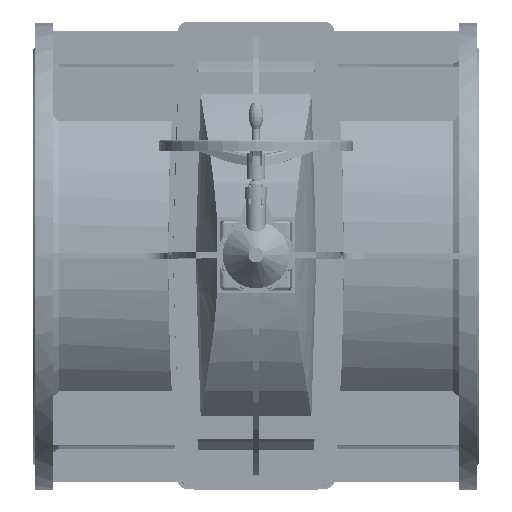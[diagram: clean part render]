
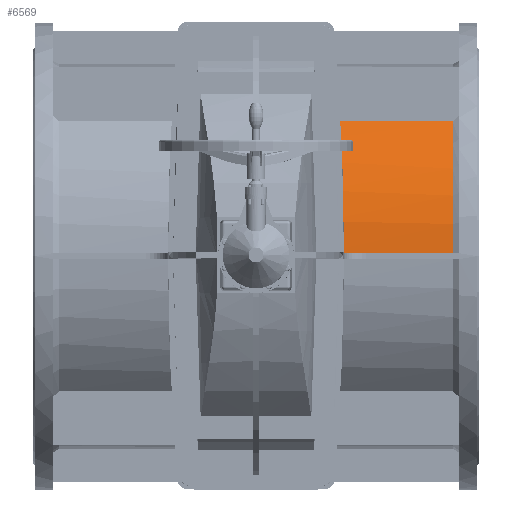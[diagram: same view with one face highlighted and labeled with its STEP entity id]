
A CAD part, top view. The second image highlights one B-rep face of the part: STEP entity #6569.
In plain terms, the highlighted cylindrical face has radius 516.667 mm (diameter 1033.33 mm), a partial arc.
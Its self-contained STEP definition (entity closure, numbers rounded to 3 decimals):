
#6569=ADVANCED_FACE('',(#12770),#12772,.T.);
#12770=FACE_BOUND('',#12771,.T.);
#12771=EDGE_LOOP('',(#28566,#28567,#28568,#28569));
#12772=CYLINDRICAL_SURFACE('',#12773,516.667);
#12773=AXIS2_PLACEMENT_3D('',#12774,#12775,#12776);
#12774=CARTESIAN_POINT('',(545.,0.,0.));
#12775=DIRECTION('',(-1.,0.,0.));
#12776=DIRECTION('',(0.,1.,0.));
#28566=ORIENTED_EDGE('',*,*,#36009,.F.);
#28567=ORIENTED_EDGE('',*,*,#36010,.T.);
#28568=ORIENTED_EDGE('',*,*,#35729,.F.);
#28569=ORIENTED_EDGE('',*,*,#36008,.T.);
#35729=EDGE_CURVE('',#39967,#39969,#39970,.T.);
#36008=EDGE_CURVE('',#39967,#40469,#40471,.T.);
#36009=EDGE_CURVE('',#40472,#40469,#40473,.F.);
#36010=EDGE_CURVE('',#40472,#39969,#40474,.F.);
#39967=VERTEX_POINT('',#49360);
#39969=VERTEX_POINT('',#49371);
#39970=LINE('',#49372,#49373);
#40469=VERTEX_POINT('',#51483);
#40471=CIRCLE('',#51494,516.667);
#40472=VERTEX_POINT('',#51498);
#40473=LINE('',#51499,#51500);
#40474=B_SPLINE_CURVE_WITH_KNOTS('',3,
(#51502,#51503,#51504,#51505,#51506,#51507,#51508,#51509,#51510,#51511,#51512,#51513,
#51514,#51515,#51516,#51517,#51518,#51519,#51520,#51521,#51522,#51523,#51524,#51525,
#51526,#51527,#51528,#51529,#51530,#51531,#51532,#51533,#51534,#51535,#51536,#51537,
#51538,#51539,#51540,#51541,#51542),
.UNSPECIFIED.,.F.,.F.,
(4,1,1,1,1,1,1,1,1,1,1,1,1,1,1,1,1,1,1,1,1,1,1,1,1,1,1,1,1,1,1,1,1,1,1,1,1,1,4),
(0.,0.011,0.023,0.036,0.057,
0.078,0.1,0.119,0.138,0.168,
0.199,0.231,0.256,0.279,0.302,
0.325,0.35,0.376,0.402,0.429,
0.457,0.485,0.513,0.542,0.581,
0.619,0.657,0.687,0.72,0.765,
0.808,0.85,0.877,0.901,0.922,
0.942,0.962,0.981,1.),
.UNSPECIFIED.);
#49360=CARTESIAN_POINT('',(528.333,8.333,516.599));
#49371=CARTESIAN_POINT('',(175.157,8.333,516.599));
#49372=CARTESIAN_POINT('',(528.333,8.333,516.599));
#49373=VECTOR('',#49374,1.);
#49374=DIRECTION('',(-1.,0.,0.));
#51483=CARTESIAN_POINT('',(528.333,362.978,367.684));
#51494=AXIS2_PLACEMENT_3D('',#51495,#51496,#51497);
#51495=CARTESIAN_POINT('',(528.333,0.,0.));
#51496=DIRECTION('',(-1.,0.,0.));
#51497=DIRECTION('',(0.,0.016,1.));
#51498=CARTESIAN_POINT('',(156.325,362.978,367.684));
#51499=CARTESIAN_POINT('',(528.333,362.978,367.684));
#51500=VECTOR('',#51501,1.);
#51501=DIRECTION('',(-1.,0.,0.));
#51502=CARTESIAN_POINT('',(175.157,8.333,516.599));
#51503=CARTESIAN_POINT('',(175.154,9.721,516.577));
#51504=CARTESIAN_POINT('',(175.145,12.694,516.517));
#51505=CARTESIAN_POINT('',(175.123,17.449,516.38));
#51506=CARTESIAN_POINT('',(175.087,23.546,516.145));
#51507=CARTESIAN_POINT('',(175.028,30.871,515.766));
#51508=CARTESIAN_POINT('',(174.94,39.311,515.193));
#51509=CARTESIAN_POINT('',(174.834,47.423,514.506));
#51510=CARTESIAN_POINT('',(174.712,55.288,513.718));
#51511=CARTESIAN_POINT('',(174.557,64.096,512.706));
#51512=CARTESIAN_POINT('',(174.343,74.525,511.31));
#51513=CARTESIAN_POINT('',(174.053,86.589,509.41));
#51514=CARTESIAN_POINT('',(173.739,97.956,507.338));
#51515=CARTESIAN_POINT('',(173.42,108.289,505.22));
#51516=CARTESIAN_POINT('',(173.116,117.336,503.194));
#51517=CARTESIAN_POINT('',(172.795,126.209,501.042));
#51518=CARTESIAN_POINT('',(172.446,135.227,498.686));
#51519=CARTESIAN_POINT('',(172.061,144.558,496.065));
#51520=CARTESIAN_POINT('',(171.633,154.259,493.137));
#51521=CARTESIAN_POINT('',(171.168,164.176,489.927));
#51522=CARTESIAN_POINT('',(170.666,174.277,486.426));
#51523=CARTESIAN_POINT('',(170.131,184.466,482.656));
#51524=CARTESIAN_POINT('',(169.561,194.763,478.595));
#51525=CARTESIAN_POINT('',(168.96,205.096,474.26));
#51526=CARTESIAN_POINT('',(168.26,216.572,469.148));
#51527=CARTESIAN_POINT('',(167.458,229.057,463.199));
#51528=CARTESIAN_POINT('',(166.548,242.456,456.327));
#51529=CARTESIAN_POINT('',(165.673,254.732,449.574));
#51530=CARTESIAN_POINT('',(164.822,266.184,442.879));
#51531=CARTESIAN_POINT('',(163.894,278.225,435.446));
#51532=CARTESIAN_POINT('',(162.83,291.465,426.724));
#51533=CARTESIAN_POINT('',(161.66,305.415,416.846));
#51534=CARTESIAN_POINT('',(160.632,317.197,407.913));
#51535=CARTESIAN_POINT('',(159.774,326.75,400.266));
#51536=CARTESIAN_POINT('',(159.111,333.982,394.241));
#51537=CARTESIAN_POINT('',(158.511,340.418,388.692));
#51538=CARTESIAN_POINT('',(157.949,346.346,383.418));
#51539=CARTESIAN_POINT('',(157.397,352.083,378.156));
#51540=CARTESIAN_POINT('',(156.857,357.612,372.93));
#51541=CARTESIAN_POINT('',(156.501,361.211,369.428));
#51542=CARTESIAN_POINT('',(156.325,362.978,367.684));
